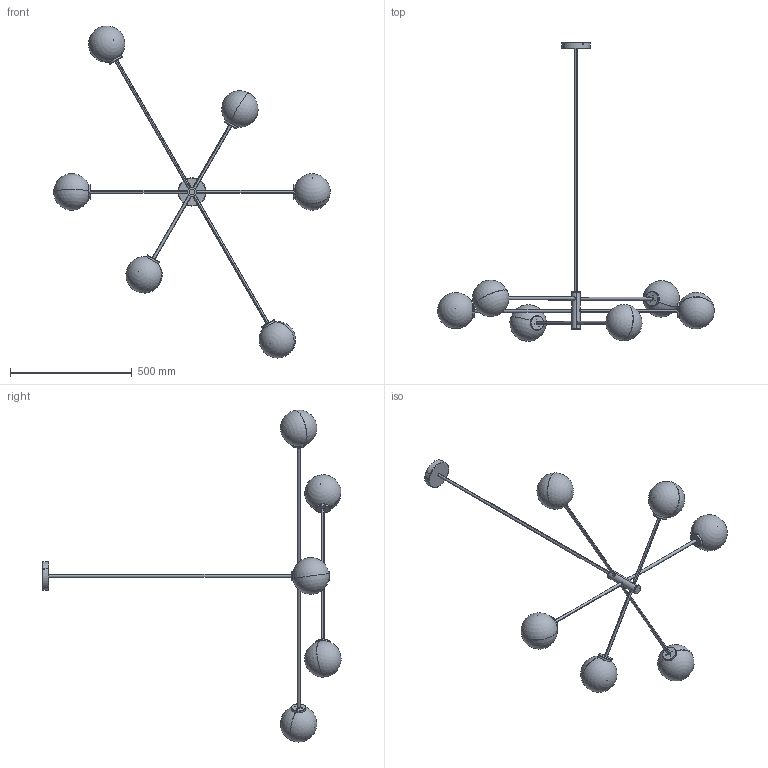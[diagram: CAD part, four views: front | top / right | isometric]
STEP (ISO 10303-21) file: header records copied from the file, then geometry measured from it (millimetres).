
FILE_DESCRIPTION (( 'STEP AP214' ), '1' );
FILE_NAME ('CTO-01-245-0101 (Trevi 6 arms) _ B.STEP', '2019-04-11T13:27:24', ( '' ), ( '' ), 'SwSTEP 2.0', 'SolidWorks 2019', '' );
FILE_SCHEMA (( 'AUTOMOTIVE_DESIGN' ));
Length unit declared in the file: millimetre
Products named in the file (22): PCTO 02 0663; PCTO 02 0447; PCTO 02 0654_costumer cad; PCTO 02 0666_400; E14 Lamp holder assembly; PCTO 02 0019; PCTO 02 0668_300; Opal Glass Arm Medium B_costumer cad; 116mm Ceiling Box_Customer CAD; PCTO 01 0079; PCTO 02 0655_costumer cad; Opal Glass Arm Short B_costumer cad; PCTO 02 0043; Opal Glass Arm Long B_costumer cad; PCTO 01 0025; PCTO 02 0656_costumer cad; PCTO 03 0027; CTO-01-245-0101 (Trevi 6 arms) _ B
Assembly tree (36 placements, depth 4):
  CTO-01-245-0101 (Trevi 6 arms) _ B
    PCTO 02 0654_costumer cad
    PCTO 02 0655_costumer cad
    PCTO 02 0656_costumer cad
    116mm Ceiling Box_Customer CAD
      PCTO 02 0447
    PCTO 02 0019
    Opal Glass Arm Short B_costumer cad
      PCTO 02 0043
      PCTO 02 0668_300
      PCTO 03 0027
    Opal Glass Arm Short B_costumer cad
      PCTO 02 0043
      PCTO 02 0668_300
      PCTO 03 0027
    Opal Glass Arm Medium B_costumer cad
      PCTO 02 0043
      PCTO 02 0666_400
      PCTO 03 0027
    Opal Glass Arm Medium B_costumer cad
      PCTO 02 0043
      PCTO 02 0666_400
      PCTO 03 0027
    Opal Glass Arm Long B_costumer cad
      PCTO 02 0043
      E14 Lamp holder assembly
        PCTO 01 0079
        PCTO 01 0025
      PCTO 02 0663
      PCTO 03 0027
    Opal Glass Arm Long B_costumer cad
      PCTO 02 0043
      E14 Lamp holder assembly
        PCTO 01 0079
        PCTO 01 0025
      PCTO 02 0663
      PCTO 03 0027
Bounding box: 1138.25 x 1227 x 1365.68 mm (x, y, z)
Volume: 1137090.4 mm3; surface area: 1208103.9 mm2
Topology: 27 solids, 27 shells, 374 faces, 920 edges, 596 vertices
Faces by surface type: cylinder 216, plane 98, torus 28, sphere 24, bspline 8
Entity records: 7567 total; most frequent: CARTESIAN_POINT 2520, DIRECTION 966, ORIENTED_EDGE 796, AXIS2_PLACEMENT_3D 410, EDGE_CURVE 398, VERTEX_POINT 262, EDGE_LOOP 226, CIRCLE 196
